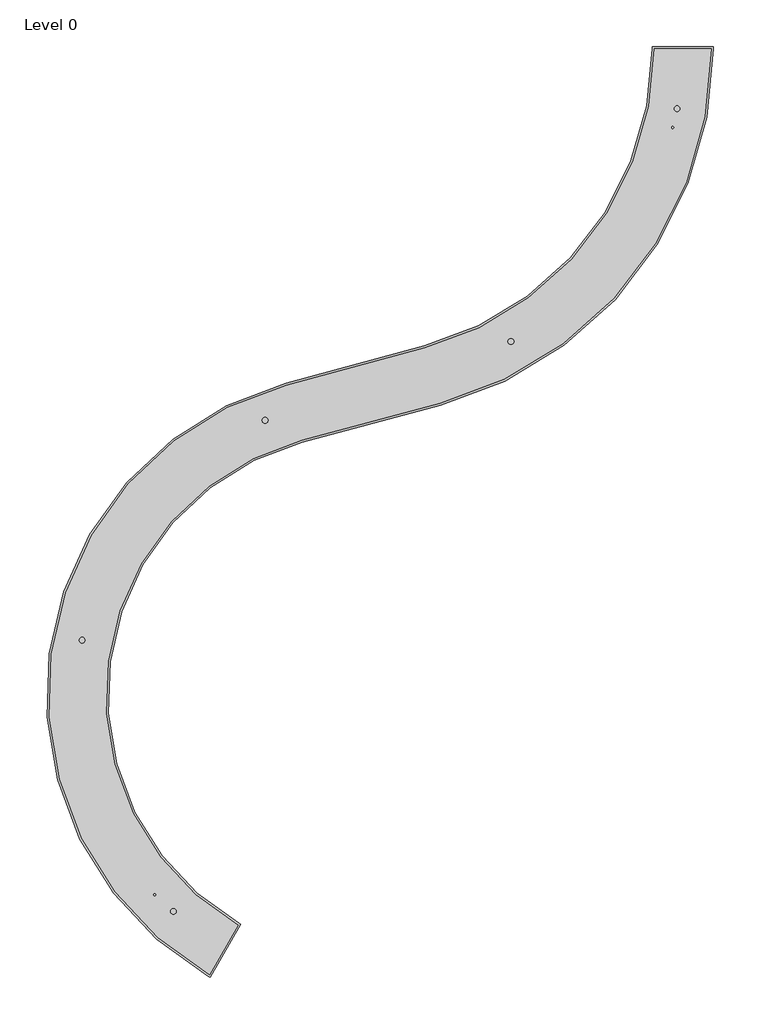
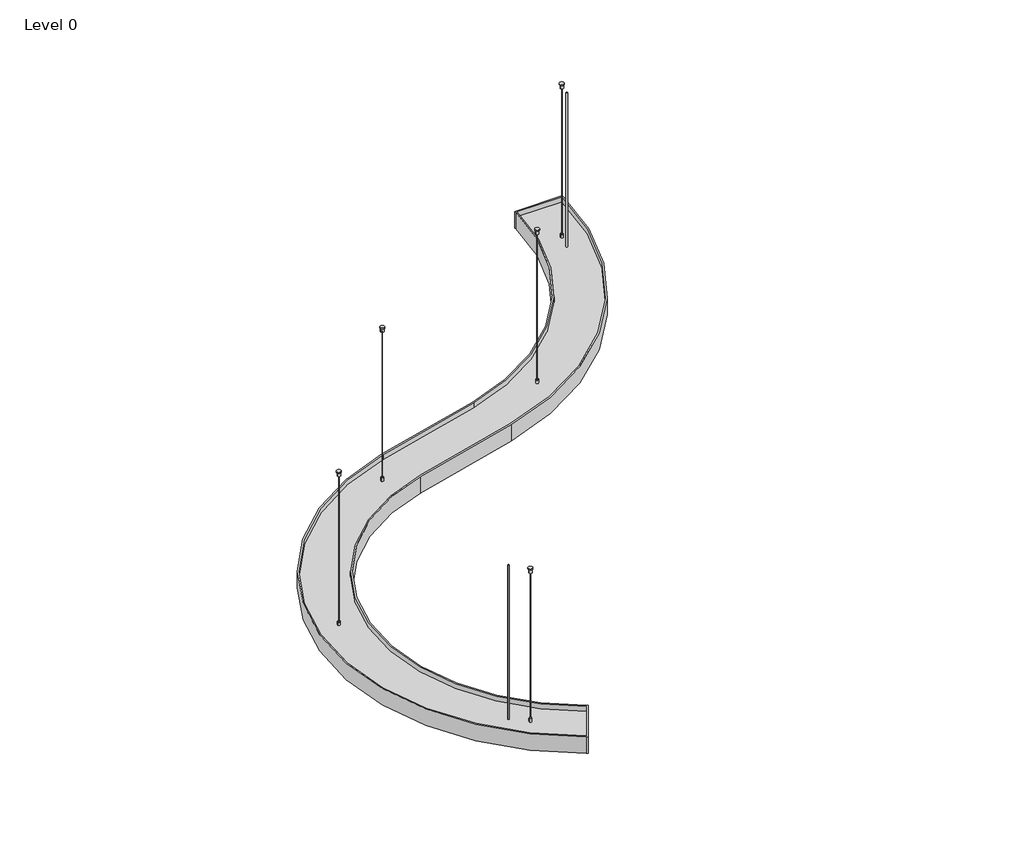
# One storey: 1 light fixture.
"""IFC4 building model written with IfcOpenShell, lengths in millimetres."""

from ifc_helpers import new_model, si_unit, origin, place, context, project, spatial, transform, mapped, element, save
from components import silver_anodized_3000_k_8330_lm_0e5ecade

model = new_model("IFC4")

# Units and contexts
model_context = context("Model", 3, world=origin())
ifc_project = project(units=[si_unit("LENGTHUNIT", "METRE", prefix="MILLI")], contexts=[model_context])

# Site, building, storey
site = spatial("IfcSite", under=ifc_project)
building = spatial("IfcBuilding", under=site)
storey = spatial("IfcBuildingStorey", under=building, Name="Level 0", Elevation=0.0)

# Light fixture
placement = place(None, origin())
silver_anodized_3000_k_8330_lm_shape = silver_anodized_3000_k_8330_lm_0e5ecade(model_context)
element("IfcLightFixture", 1, ObjectType="KLUŚ - MIFOR - MI-SNAKE-04 : Silver anodized - 3000 K - 8330 lm", at=placement, inside=storey, context=model_context, shape_type="MappedRepresentation", body=[
    mapped(silver_anodized_3000_k_8330_lm_shape, transform((0.0, 0.0, 555.0), x_axis=(1.0, 0.0, 0.0), y_axis=(0.0, -1.0, 0.0), z_axis=(0.0, 0.0, -1.0))),
])

save(model, "model.ifc")
